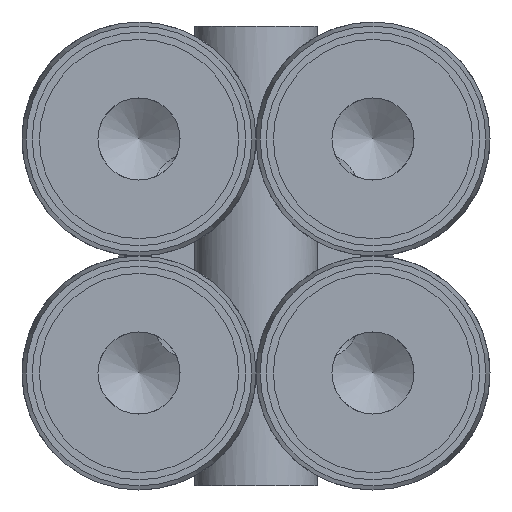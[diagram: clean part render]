
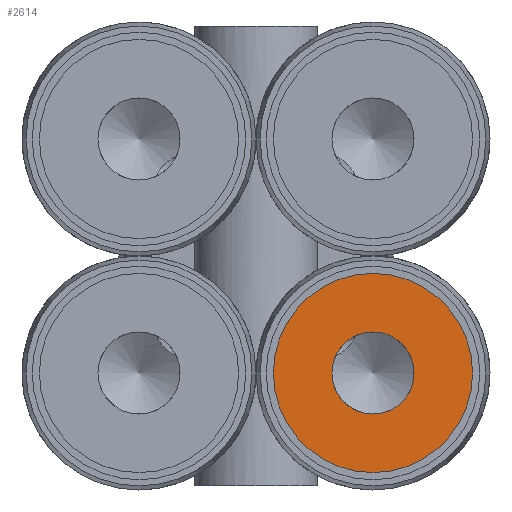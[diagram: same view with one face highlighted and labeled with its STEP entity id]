
A CAD part, front view. The second image highlights one B-rep face of the part: STEP entity #2614.
In plain terms, the highlighted planar face has unit normal (0, -1, 0).
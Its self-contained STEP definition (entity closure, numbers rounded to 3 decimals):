
#76=FACE_BOUND('',#399,.T.);
#115=PLANE('',#2887);
#251=FACE_OUTER_BOUND('',#398,.T.);
#398=EDGE_LOOP('',(#2268,#2269));
#399=EDGE_LOOP('',(#2270,#2271));
#787=CIRCLE('',#2676,2.);
#788=CIRCLE('',#2677,2.);
#875=CIRCLE('',#2868,4.85);
#876=CIRCLE('',#2869,4.85);
#948=VERTEX_POINT('',#3756);
#949=VERTEX_POINT('',#3757);
#1157=VERTEX_POINT('',#6056);
#1158=VERTEX_POINT('',#6058);
#1227=EDGE_CURVE('',#948,#949,#787,.T.);
#1228=EDGE_CURVE('',#949,#948,#788,.T.);
#1545=EDGE_CURVE('',#1158,#1157,#875,.T.);
#1546=EDGE_CURVE('',#1157,#1158,#876,.T.);
#2268=ORIENTED_EDGE('',*,*,#1545,.T.);
#2269=ORIENTED_EDGE('',*,*,#1546,.T.);
#2270=ORIENTED_EDGE('',*,*,#1227,.T.);
#2271=ORIENTED_EDGE('',*,*,#1228,.T.);
#2614=ADVANCED_FACE('',(#251,#76),#115,.F.);
#2676=AXIS2_PLACEMENT_3D('',#3758,#2990,#2991);
#2677=AXIS2_PLACEMENT_3D('',#3759,#2992,#2993);
#2868=AXIS2_PLACEMENT_3D('',#6059,#3466,#3467);
#2869=AXIS2_PLACEMENT_3D('',#6060,#3468,#3469);
#2887=AXIS2_PLACEMENT_3D('',#6091,#3507,#3508);
#2990=DIRECTION('center_axis',(0.,1.,0.));
#2991=DIRECTION('ref_axis',(1.,0.,0.));
#2992=DIRECTION('center_axis',(0.,1.,0.));
#2993=DIRECTION('ref_axis',(1.,0.,0.));
#3466=DIRECTION('center_axis',(0.,-1.,0.));
#3467=DIRECTION('ref_axis',(1.,0.,0.));
#3468=DIRECTION('center_axis',(0.,-1.,0.));
#3469=DIRECTION('ref_axis',(1.,0.,0.));
#3507=DIRECTION('center_axis',(0.,1.,0.));
#3508=DIRECTION('ref_axis',(0.,0.,1.));
#3756=CARTESIAN_POINT('',(7.7,-13.4,-5.7));
#3757=CARTESIAN_POINT('',(3.7,-13.4,-5.7));
#3758=CARTESIAN_POINT('Origin',(5.7,-13.4,-5.7));
#3759=CARTESIAN_POINT('Origin',(5.7,-13.4,-5.7));
#6056=CARTESIAN_POINT('',(10.55,-13.4,-5.7));
#6058=CARTESIAN_POINT('',(0.85,-13.4,-5.7));
#6059=CARTESIAN_POINT('Origin',(5.7,-13.4,-5.7));
#6060=CARTESIAN_POINT('Origin',(5.7,-13.4,-5.7));
#6091=CARTESIAN_POINT('Origin',(0.85,-13.4,-5.7));
